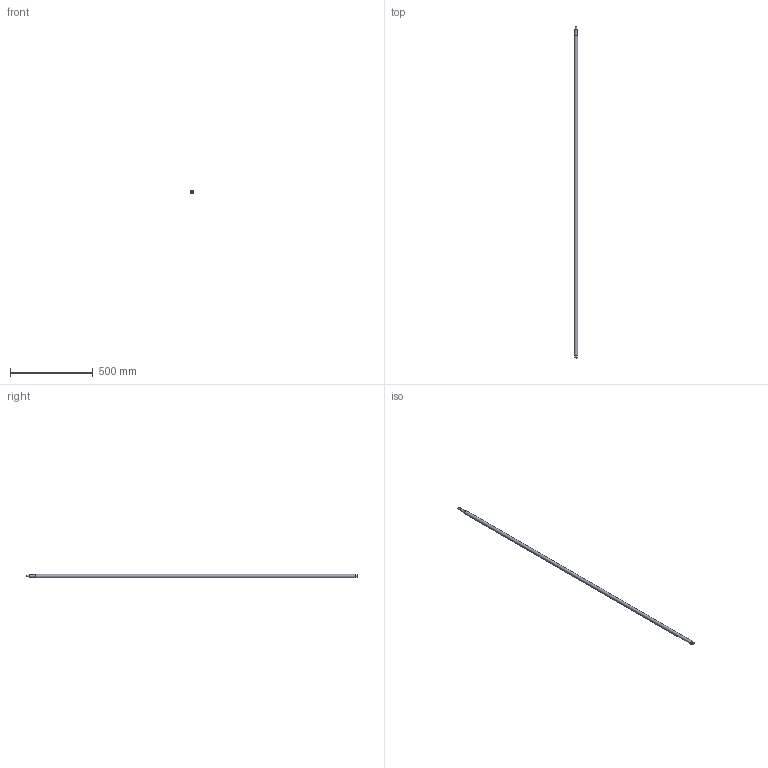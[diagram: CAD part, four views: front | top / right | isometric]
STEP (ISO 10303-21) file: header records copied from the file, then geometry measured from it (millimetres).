
FILE_DESCRIPTION(/* description */ (''),/* implementation_level */ '2;1');
FILE_NAME(/* name */ 'C:\Users\David\Desktop\stepFiles\Profilfuehrung\KUS2005x2000.stp',/* time_stamp */ '2018-06-24T15:12:12+02:00',/* author */ ('David'),/* organization */ (''),/* preprocessor_version */ 'ST-DEVELOPER v17',/* originating_system */ 'Autodesk Inventor 2019',/* authorisation */ '');
FILE_SCHEMA (('AUTOMOTIVE_DESIGN { 1 0 10303 214 3 1 1 }'));
Length unit declared in the file: millimetre
Products named in the file (1): SFU2005xvaiabel
Bounding box: 20 x 2000 x 20 mm (x, y, z)
Volume: 616983.9 mm3; surface area: 124961 mm2
Topology: 1 solids, 1 shells, 15 faces, 34 edges, 26 vertices
Faces by surface type: plane 7, cylinder 6, cone 2
Full cylindrical faces by diameter (mm): 12 x1, 14.3 x1, 15 x3, 20 x1
Entity records: 493 total; most frequent: DIRECTION 92, CARTESIAN_POINT 76, ORIENTED_EDGE 68, AXIS2_PLACEMENT_3D 42, EDGE_CURVE 34, CIRCLE 26, VERTEX_POINT 26, EDGE_LOOP 20
